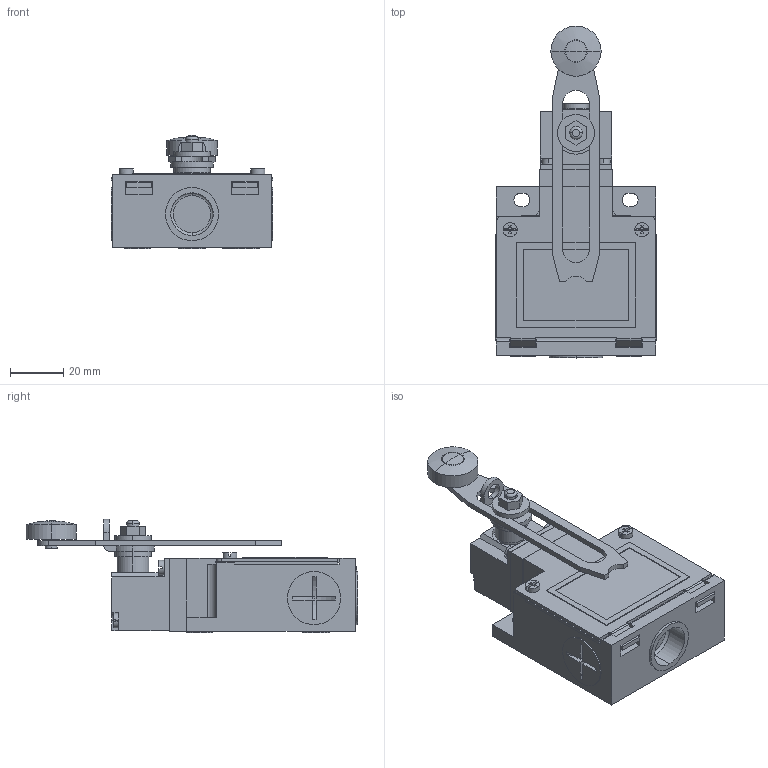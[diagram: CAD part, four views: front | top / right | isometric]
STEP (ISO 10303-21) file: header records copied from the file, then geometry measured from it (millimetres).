
FILE_DESCRIPTION (( 'STEP AP203' ), '1' );
FILE_NAME ('TZE41.STEP', '2018-02-07T13:43:30', ( '' ), ( '' ), 'SwSTEP 2.0', 'SolidWorks 2012', '' );
FILE_SCHEMA (( 'CONFIG_CONTROL_DESIGN' ));
Length unit declared in the file: millimetre
Products named in the file (1): TZE41
Bounding box: 61 x 124.95 x 42.65 mm (x, y, z)
Volume: 117700.1 mm3; surface area: 24468.9 mm2
Topology: 1 solids, 1 shells, 369 faces, 958 edges, 615 vertices
Faces by surface type: plane 263, cylinder 98, torus 4, sphere 4
Entity records: 11295 total; most frequent: CARTESIAN_POINT 2051, ORIENTED_EDGE 1916, DIRECTION 1900, EDGE_CURVE 958, VECTOR 684, LINE 684, VERTEX_POINT 615, AXIS2_PLACEMENT_3D 608
